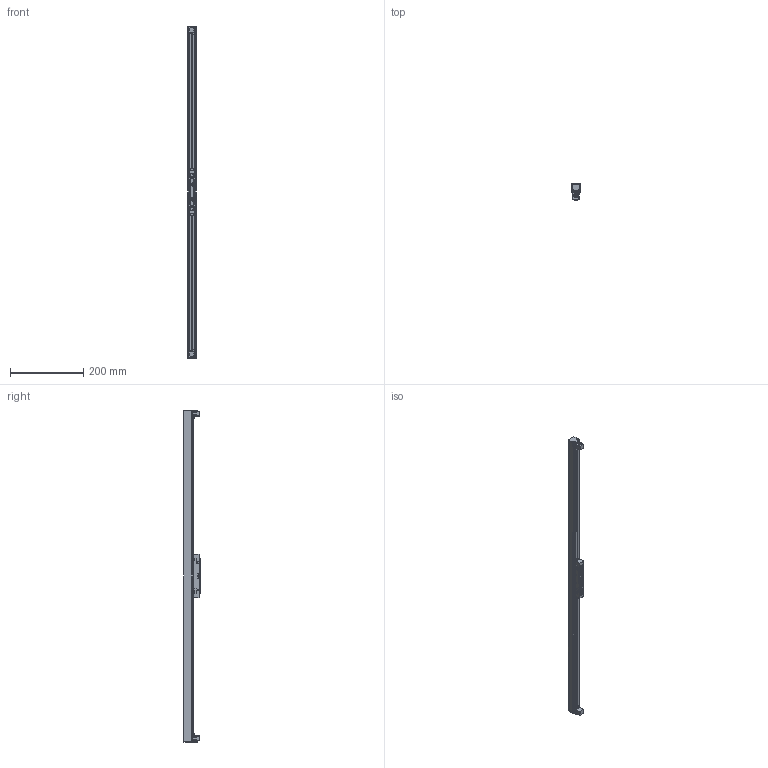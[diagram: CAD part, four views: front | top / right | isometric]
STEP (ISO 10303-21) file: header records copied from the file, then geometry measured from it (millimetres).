
FILE_DESCRIPTION (( 'STEP AP203' ), '1' );
FILE_NAME ('410100.STEP', '2021-10-29T01:56:46', ( '微软用户' ), ( '微软中国' ), 'SwSTEP 2.0', 'SolidWorks 2014', '' );
FILE_SCHEMA (( 'CONFIG_CONTROL_DESIGN' ));
Length unit declared in the file: millimetre
Products named in the file (22): 03_X_T; MANIFOLD_SOLID_BREP_5134_2; 滓嫖黑芛ㄗ湍怢論ㄘ; 沉头十字自攻螺丝M3X6; MANIFOLD_SOLID_BREP_5136_8; 臏價啣-900; 20磁吸（无推钮）短款电源盒：GN-CX01-7-2; MANIFOLD_SOLID_BREP_41700; PET毀嫖祧-600; 410100; DK-1_0406A_14_59_ASM; PET毀嫖祧-300; 08-20-PC1_6; 滓嫖醱欶-900; MANIFOLD_SOLID_BREP_45179; ｳﾁﾍｷﾊｮﾗﾖﾗﾔｹ･ﾂﾝﾋｿ M2.5X8; MANIFOLD_SOLID_BREP_53625; 安全扣：GN-CX01-10; 滓嫖腑极-900ㄗ湍怢論ㄘ; 08-22-W1_37_ASM; 埴芛坋趼蹟佪M3X6; 黑芛掖蝶ㄗ湍怢論ㄘ
Assembly tree (31 placements, depth 4):
  410100
    滓嫖腑极-900ㄗ湍怢論ㄘ
    黑芛掖蝶ㄗ湍怢論ㄘ  x2
    滓嫖黑芛ㄗ湍怢論ㄘ  x2
    臏價啣-900
    PET毀嫖祧-600  x2
    PET毀嫖祧-300  x2
    滓嫖醱欶-900
    ｳﾁﾍｷﾊｮﾗﾖﾗﾔｹ･ﾂﾝﾋｿ M2.5X8  x4
    安全扣：GN-CX01-10  x2
    埴芛坋趼蹟佪M3X6  x2
    20磁吸（无推钮）短款电源盒：GN-CX01-7-2
      MANIFOLD_SOLID_BREP_5134_2
      MANIFOLD_SOLID_BREP_5136_8
      DK-1_0406A_14_59_ASM
        MANIFOLD_SOLID_BREP_41700
      08-20-PC1_6
      08-22-W1_37_ASM
        MANIFOLD_SOLID_BREP_45179
        MANIFOLD_SOLID_BREP_53625
      03_X_T
      沉头十字自攻螺丝M3X6  x2
Bounding box: 22 x 44.2 x 904.4 mm (x, y, z)
Volume: 205615.9 mm3; surface area: 304157.6 mm2
Topology: 27 solids, 29 shells, 3015 faces, 7742 edges, 5082 vertices
Faces by surface type: plane 2470, cylinder 399, cone 64, bspline 60, torus 14, sphere 8
Entity records: 87873 total; most frequent: CARTESIAN_POINT 18693, ORIENTED_EDGE 14108, DIRECTION 12655, EDGE_CURVE 7057, LINE 6151, VECTOR 6151, VERTEX_POINT 4661, AXIS2_PLACEMENT_3D 3252
